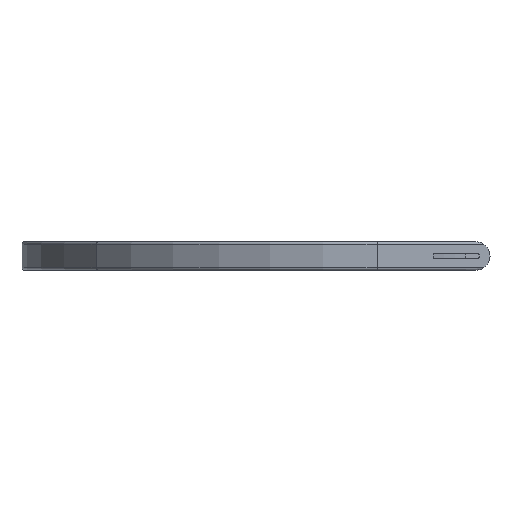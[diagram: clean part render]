
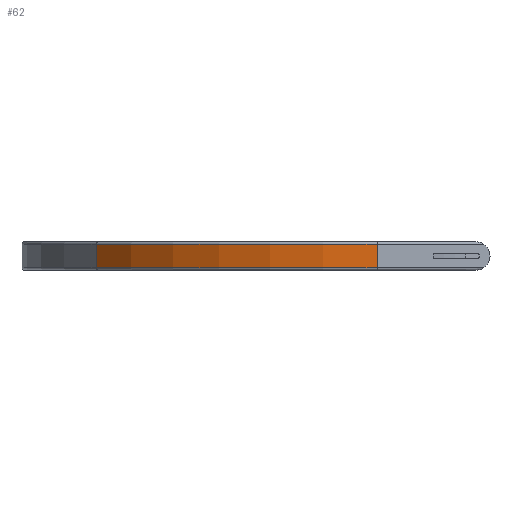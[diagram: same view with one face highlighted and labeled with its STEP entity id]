
A CAD part, left-side view. The second image highlights one B-rep face of the part: STEP entity #62.
In plain terms, the highlighted cylindrical face has radius 85 mm (diameter 170 mm), a partial arc.
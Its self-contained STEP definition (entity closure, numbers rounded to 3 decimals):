
#62=ADVANCED_FACE('',(#504),#506,.T.);
#504=FACE_BOUND('',#505,.T.);
#505=EDGE_LOOP('',(#1526,#1527,#1528,#1529));
#506=CYLINDRICAL_SURFACE('',#507,85.);
#507=AXIS2_PLACEMENT_3D('',#508,#509,#510);
#508=CARTESIAN_POINT('',(-14.5,1.246,-3.5));
#509=DIRECTION('',(0.,0.,1.));
#510=DIRECTION('',(-0.583,0.812,0.));
#1526=ORIENTED_EDGE('',*,*,#2167,.T.);
#1527=ORIENTED_EDGE('',*,*,#2145,.T.);
#1528=ORIENTED_EDGE('',*,*,#2168,.F.);
#1529=ORIENTED_EDGE('',*,*,#2169,.F.);
#2145=EDGE_CURVE('',#2471,#2468,#2472,.T.);
#2167=EDGE_CURVE('',#2509,#2471,#2510,.T.);
#2168=EDGE_CURVE('',#2511,#2468,#2512,.T.);
#2169=EDGE_CURVE('',#2509,#2511,#2513,.T.);
#2468=VERTEX_POINT('',#3006);
#2471=VERTEX_POINT('',#3011);
#2472=LINE('',#3012,#3013);
#2509=VERTEX_POINT('',#3129);
#2510=CIRCLE('',#3130,85.);
#2511=VERTEX_POINT('',#3134);
#2512=CIRCLE('',#3135,85.);
#2513=LINE('',#3139,#3140);
#3006=CARTESIAN_POINT('',(-99.5,1.246,2.9));
#3011=CARTESIAN_POINT('',(-99.5,1.246,-2.9));
#3012=CARTESIAN_POINT('',(-99.5,1.246,-2.9));
#3013=VECTOR('',#3014,1.);
#3014=DIRECTION('',(0.,0.,1.));
#3129=CARTESIAN_POINT('',(-64.083,70.286,-2.9));
#3130=AXIS2_PLACEMENT_3D('',#3131,#3132,#3133);
#3131=CARTESIAN_POINT('',(-14.5,1.246,-2.9));
#3132=DIRECTION('',(0.,0.,1.));
#3133=DIRECTION('',(-0.583,0.812,0.));
#3134=CARTESIAN_POINT('',(-64.083,70.286,2.9));
#3135=AXIS2_PLACEMENT_3D('',#3136,#3137,#3138);
#3136=CARTESIAN_POINT('',(-14.5,1.246,2.9));
#3137=DIRECTION('',(0.,0.,1.));
#3138=DIRECTION('',(-0.583,0.812,0.));
#3139=CARTESIAN_POINT('',(-64.083,70.286,-2.9));
#3140=VECTOR('',#3141,1.);
#3141=DIRECTION('',(0.,0.,1.));
